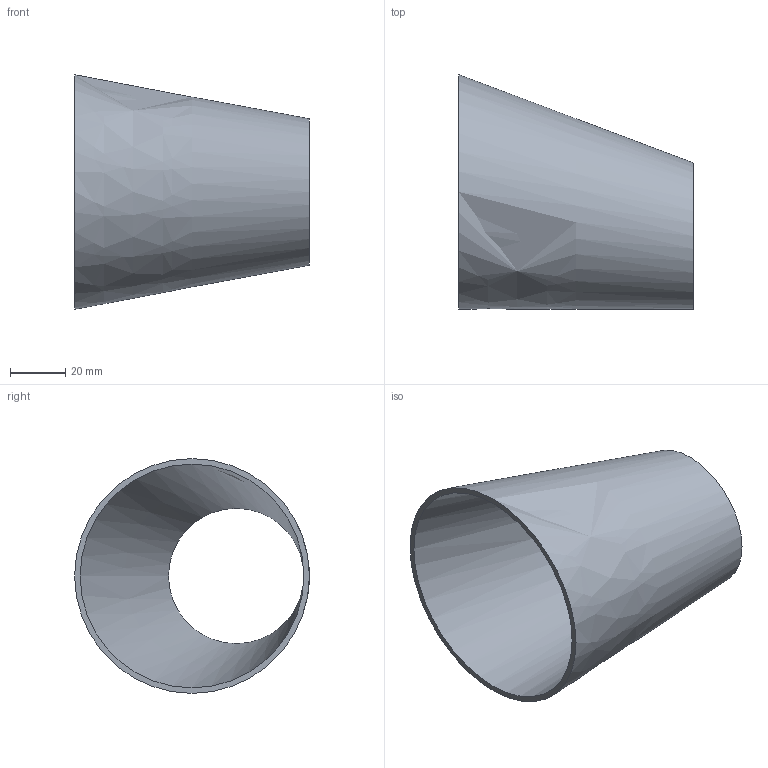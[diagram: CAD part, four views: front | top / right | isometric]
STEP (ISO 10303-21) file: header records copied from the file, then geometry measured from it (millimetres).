
FILE_DESCRIPTION(('FreeCAD Model'),'2;1');
FILE_NAME( '/home/martin/Documents/proyect/accesorios/stp/red-exc_DN80-50.step', '2017-12-31T13:04:16',('Author'),(''), 'Open CASCADE STEP processor 6.8','FreeCAD','Unknown');
FILE_SCHEMA(('AUTOMOTIVE_DESIGN_CC2 { 1 2 10303 214 -1 1 5 4 }'));
Length unit declared in the file: millimetre
Products named in the file (1): red-exc_DN80-50
Bounding box: 85 x 85 x 85 mm (x, y, z)
Volume: 35782.7 mm3; surface area: 37552.4 mm2
Topology: 1 solids, 1 shells, 4 faces, 6 edges, 4 vertices
Faces by surface type: bspline 2, plane 2
Entity records: 299 total; most frequent: CARTESIAN_POINT 139, DIRECTION 26, ORIENTED_EDGE 12, PCURVE 12, DEFINITIONAL_REPRESENTATION 12, CIRCLE 8, LINE 8, VECTOR 8
